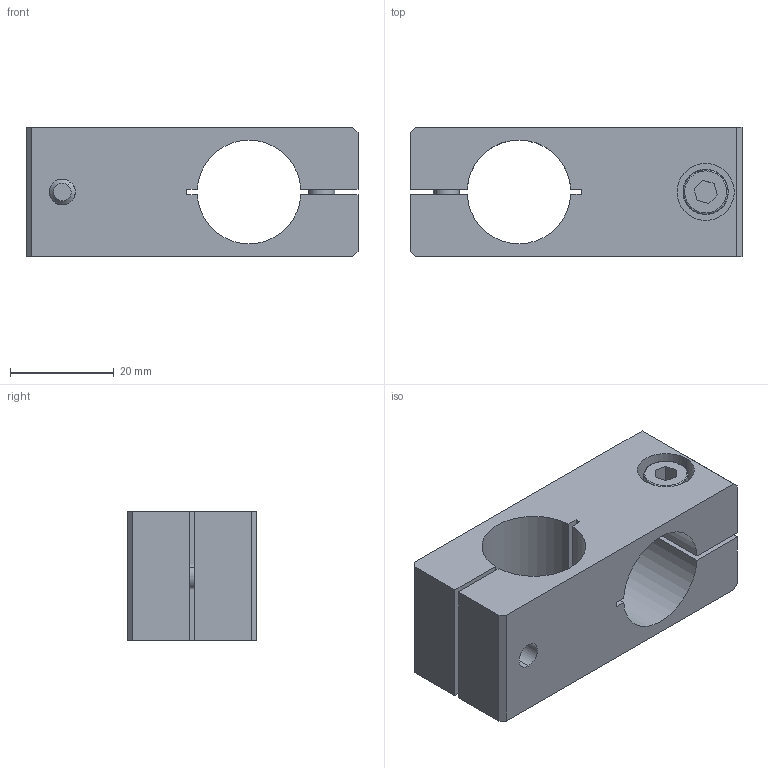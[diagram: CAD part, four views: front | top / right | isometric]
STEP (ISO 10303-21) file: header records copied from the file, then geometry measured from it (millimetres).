
FILE_DESCRIPTION (( 'STEP AP214' ), '1' );
FILE_NAME ('SMBT-2020.STEP', '2019-11-06T05:32:51', ( '微软用户' ), ( '微软中国' ), 'SwSTEP 2.0', 'SolidWorks 2016', '' );
FILE_SCHEMA (( 'AUTOMOTIVE_DESIGN' ));
Length unit declared in the file: millimetre
Products named in the file (1): SMBT-2020
Bounding box: 64 x 25 x 25 mm (x, y, z)
Volume: 22672.5 mm3; surface area: 12743.7 mm2
Topology: 5 solids, 5 shells, 471 faces, 1363 edges, 902 vertices
Faces by surface type: plane 430, cylinder 33, cone 4, bspline 4
Entity records: 21090 total; most frequent: CARTESIAN_POINT 3007, DIRECTION 2733, ORIENTED_EDGE 2726, EDGE_CURVE 1363, LINE 913, VECTOR 913, AXIS2_PLACEMENT_3D 910, VERTEX_POINT 902
